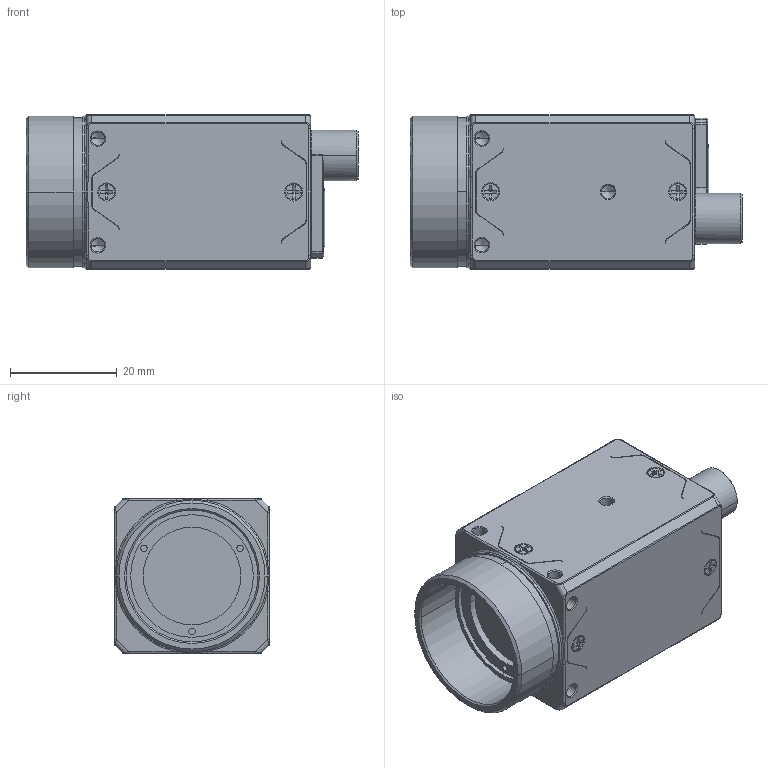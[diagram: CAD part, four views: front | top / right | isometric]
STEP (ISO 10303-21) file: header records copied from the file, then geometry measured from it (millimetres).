
FILE_DESCRIPTION((''),'2;1');
FILE_NAME('MV-CT050G-24GC01-BASE','2025-06-16T20:58:35',('sunli10'),(''),'CREO PARAMETRIC BY PTC INC, 2020044','CREO PARAMETRIC BY PTC INC, 2020044','');
FILE_SCHEMA(('CONFIG_CONTROL_DESIGN'));
Products named in the file (1): MV-CT050G-24GC01-BASE
Bounding box: 62.26 x 29 x 29 mm (x, y, z)
Volume: 36108.8 mm3; surface area: 18229.5 mm2
Topology: 4 solids, 30 shells, 2449 faces, 6566 edges, 4169 vertices
Faces by surface type: plane 1205, cylinder 827, cone 296, torus 66, bspline 51, sphere 4
Entity records: 83331 total; most frequent: CARTESIAN_POINT 21471, ORIENTED_EDGE 12996, DIRECTION 12982, EDGE_CURVE 6498, AXIS2_PLACEMENT_3D 4501, VERTEX_POINT 4167, VECTOR 3980, LINE 3980
